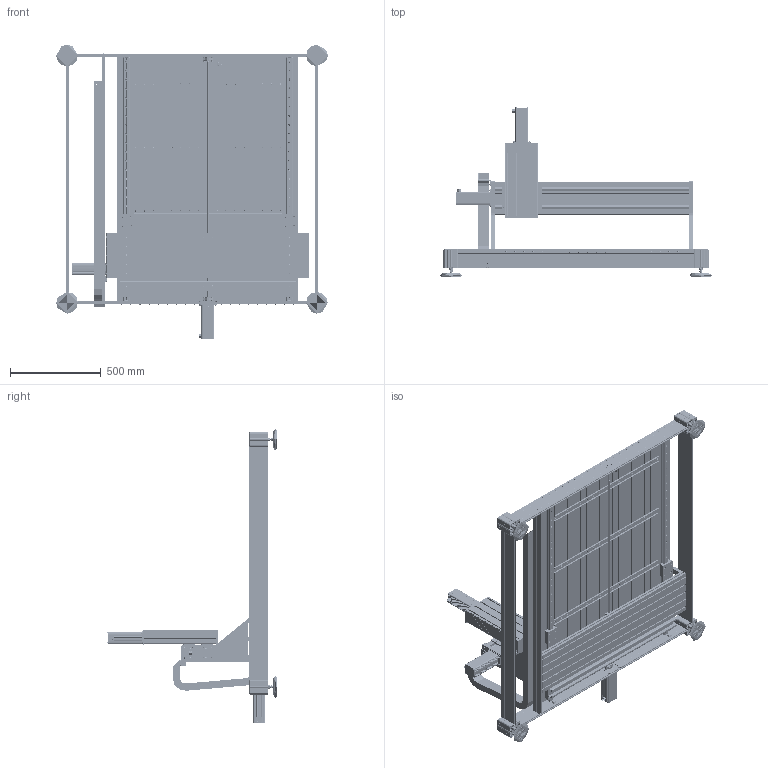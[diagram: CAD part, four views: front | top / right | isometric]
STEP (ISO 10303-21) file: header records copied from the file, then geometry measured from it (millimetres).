
FILE_DESCRIPTION (( 'STEP AP203' ), '1' );
FILE_NAME ('STEP_-_X-Y-Z Flachbetteinheit FB2 - ArtNr 246203 2067M - ArtNr 230514 0400M.step', '2015-04-22T15:06:39', ( '' ), ( '' ), 'SwSTEP 2.0', 'SolidWorks 2014', '' );
FILE_SCHEMA (( 'CONFIG_CONTROL_DESIGN' ));
Length unit declared in the file: millimetre
Products named in the file (6): Tisch 1000x1350; Tisch Baugruppe_1000x1350; TE0179 - F黨rungsschlitten_F乭rungsschlitten f乺 KG-Mutter Typ25; Z-Achse FB2 Hub 160mm; X-Y-Achse f黵 Verfagrweg 780; STEP_-_X-Y-Z Flachbetteinheit FB2 - ArtNr 246203 2067M - ArtNr 230514 0400M
Assembly tree (6 placements, depth 3):
  STEP_-_X-Y-Z Flachbetteinheit FB2 - ArtNr 246203 2067M - ArtNr 230514 0400M
    Tisch Baugruppe_1000x1350
      Tisch 1000x1350
    TE0179 - F黨rungsschlitten_F乭rungsschlitten f乺 KG-Mutter Typ25  x2
    Z-Achse FB2 Hub 160mm
    X-Y-Achse f黵 Verfagrweg 780
Bounding box: 1500 x 934.3 x 1628.3 mm (x, y, z)
Topology: 502 solids, 540 shells, 17631 faces, 45511 edges, 29463 vertices
Faces by surface type: plane 10261, cylinder 5046, cone 1039, torus 710, bspline 426, sphere 149
Full cylindrical faces by diameter (mm): 0.8 x1, 1 x7, 1.5 x6, 2 x2, 2.33 x2, 2.4 x2, 2.5 x42, 3 x16, 3.2 x15, 4 x33, 4.2 x14, 4.5 x24, 4.6 x2, 4.8 x8, 5 x77, 5.2 x69, 5.5 x21, 6 x269, 6.1 x12, 6.35 x2, 6.4 x11, 6.5 x94, 6.6 x59, 7 x210, 7.2 x3, 7.5 x42, 8 x21, 8.5 x16, 9 x1, 9.2 x3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
Entity records: 572334 total; most frequent: CARTESIAN_POINT 168877, ORIENTED_EDGE 80670, DIRECTION 80283, EDGE_CURVE 40335, AXIS2_PLACEMENT_3D 28039, VERTEX_POINT 27923, VECTOR 24205, LINE 24205
